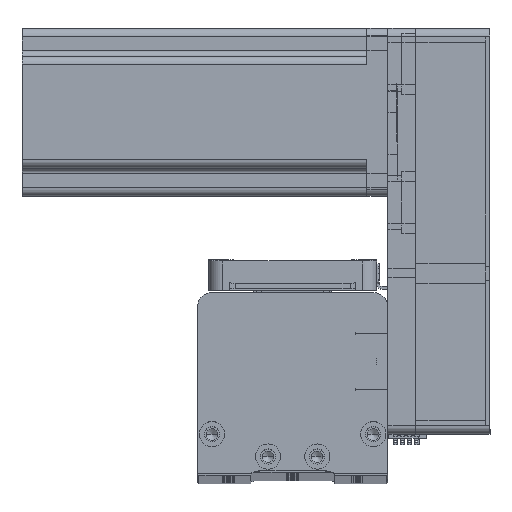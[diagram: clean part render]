
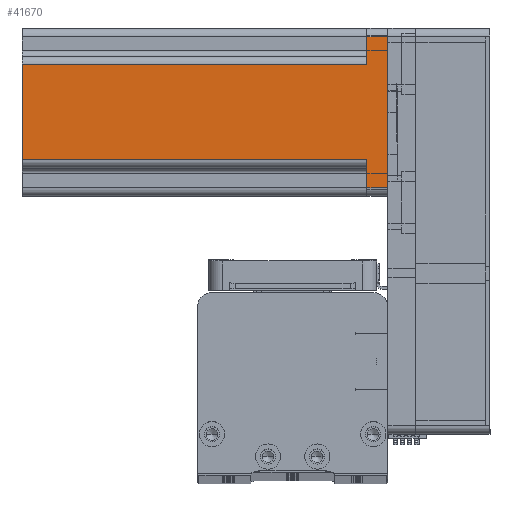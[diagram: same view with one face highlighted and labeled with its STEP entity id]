
A CAD part, top view. The second image highlights one B-rep face of the part: STEP entity #41670.
In plain terms, the highlighted planar face has unit normal (0, 0, 1) as drawn and (0, -1, 0) by its records, which use the part's own axes.
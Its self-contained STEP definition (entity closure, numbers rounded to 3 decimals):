
#8 = ORIENTED_EDGE ( 'NONE', *, *, #1772, .T. ) ;
#1043 = CARTESIAN_POINT ( 'NONE',  ( 20., -30., 7.5 ) ) ;
#1360 = VERTEX_POINT ( 'NONE', #52355 ) ;
#1653 = CARTESIAN_POINT ( 'NONE',  ( 27., -30., 0. ) ) ;
#1772 = EDGE_CURVE ( 'NONE', #10122, #1360, #12797, .T. ) ;
#2531 = LINE ( 'NONE', #3156, #46160 ) ;
#3156 = CARTESIAN_POINT ( 'NONE',  ( -27., -30., 130.7 ) ) ;
#5424 = EDGE_CURVE ( 'NONE', #1360, #37814, #44666, .T. ) ;
#6087 = CARTESIAN_POINT ( 'NONE',  ( -20., -30., 7.5 ) ) ;
#7994 = ORIENTED_EDGE ( 'NONE', *, *, #50525, .T. ) ;
#8808 = CARTESIAN_POINT ( 'NONE',  ( -27., -30., 7.5 ) ) ;
#10122 = VERTEX_POINT ( 'NONE', #1653 ) ;
#11508 = VECTOR ( 'NONE', #12740, 1000. ) ;
#12740 = DIRECTION ( 'NONE',  ( 0., 0., 1. ) ) ;
#12797 = LINE ( 'NONE', #42305, #11508 ) ;
#13905 = VECTOR ( 'NONE', #39654, 1000. ) ;
#13941 = ORIENTED_EDGE ( 'NONE', *, *, #36958, .F. ) ;
#14354 = DIRECTION ( 'NONE',  ( 1., 0., 0. ) ) ;
#14686 = LINE ( 'NONE', #28253, #25900 ) ;
#15110 = VECTOR ( 'NONE', #14354, 1000. ) ;
#16403 = LINE ( 'NONE', #6087, #15110 ) ;
#18987 = CARTESIAN_POINT ( 'NONE',  ( 30., -30., 130.7 ) ) ;
#24117 = VERTEX_POINT ( 'NONE', #41748 ) ;
#24241 = AXIS2_PLACEMENT_3D ( 'NONE', #24462, #54070, #28727 ) ;
#24462 = CARTESIAN_POINT ( 'NONE',  ( 30., -30., 130.7 ) ) ;
#25900 = VECTOR ( 'NONE', #53620, 1000. ) ;
#25920 = VECTOR ( 'NONE', #48674, 1000. ) ;
#25943 = ORIENTED_EDGE ( 'NONE', *, *, #5424, .T. ) ;
#25952 = ORIENTED_EDGE ( 'NONE', *, *, #51631, .F. ) ;
#26980 = CARTESIAN_POINT ( 'NONE',  ( 30., -30., 0. ) ) ;
#27813 = VERTEX_POINT ( 'NONE', #50180 ) ;
#28253 = CARTESIAN_POINT ( 'NONE',  ( -17., -30., 130.7 ) ) ;
#28727 = DIRECTION ( 'NONE',  ( -1., 0., 0. ) ) ;
#30949 = CARTESIAN_POINT ( 'NONE',  ( 17., -30., 130.7 ) ) ;
#31214 = DIRECTION ( 'NONE',  ( 1., 0., 0. ) ) ;
#31499 = CARTESIAN_POINT ( 'NONE',  ( 17., -30., 130.7 ) ) ;
#31778 = VERTEX_POINT ( 'NONE', #31499 ) ;
#31989 = VECTOR ( 'NONE', #31214, 1000. ) ;
#33393 = ORIENTED_EDGE ( 'NONE', *, *, #37743, .T. ) ;
#33725 = FACE_OUTER_BOUND ( 'NONE', #53927, .T. ) ;
#35033 = DIRECTION ( 'NONE',  ( -1., 0., 0. ) ) ;
#36958 = EDGE_CURVE ( 'NONE', #42768, #27813, #16403, .T. ) ;
#37182 = LINE ( 'NONE', #18987, #25920 ) ;
#37743 = EDGE_CURVE ( 'NONE', #42768, #46127, #2531, .T. ) ;
#37814 = VERTEX_POINT ( 'NONE', #50460 ) ;
#39361 = EDGE_CURVE ( 'NONE', #46127, #10122, #48606, .T. ) ;
#39654 = DIRECTION ( 'NONE',  ( 0., 0., 1. ) ) ;
#40322 = ORIENTED_EDGE ( 'NONE', *, *, #39361, .T. ) ;
#40775 = PLANE ( 'NONE',  #24241 ) ;
#41091 = EDGE_CURVE ( 'NONE', #24117, #27813, #14686, .T. ) ;
#41670 = ADVANCED_FACE ( 'NONE', ( #33725 ), #40775, .F. ) ;
#41748 = CARTESIAN_POINT ( 'NONE',  ( -17., -30., 130.7 ) ) ;
#42305 = CARTESIAN_POINT ( 'NONE',  ( 27., -30., 130.7 ) ) ;
#42768 = VERTEX_POINT ( 'NONE', #8808 ) ;
#44666 = LINE ( 'NONE', #1043, #52633 ) ;
#46127 = VERTEX_POINT ( 'NONE', #50847 ) ;
#46160 = VECTOR ( 'NONE', #49935, 1000. ) ;
#47672 = LINE ( 'NONE', #30949, #13905 ) ;
#48606 = LINE ( 'NONE', #26980, #31989 ) ;
#48674 = DIRECTION ( 'NONE',  ( 1., 0., 0. ) ) ;
#49935 = DIRECTION ( 'NONE',  ( 0., 0., -1. ) ) ;
#50180 = CARTESIAN_POINT ( 'NONE',  ( -17., -30., 7.5 ) ) ;
#50342 = ORIENTED_EDGE ( 'NONE', *, *, #41091, .T. ) ;
#50460 = CARTESIAN_POINT ( 'NONE',  ( 17., -30., 7.5 ) ) ;
#50525 = EDGE_CURVE ( 'NONE', #37814, #31778, #47672, .T. ) ;
#50847 = CARTESIAN_POINT ( 'NONE',  ( -27., -30., 0. ) ) ;
#51631 = EDGE_CURVE ( 'NONE', #24117, #31778, #37182, .T. ) ;
#52355 = CARTESIAN_POINT ( 'NONE',  ( 27., -30., 7.5 ) ) ;
#52633 = VECTOR ( 'NONE', #35033, 1000. ) ;
#53620 = DIRECTION ( 'NONE',  ( 0., 0., -1. ) ) ;
#53927 = EDGE_LOOP ( 'NONE', ( #25952, #50342, #13941, #33393, #40322, #8, #25943, #7994 ) ) ;
#54070 = DIRECTION ( 'NONE',  ( 0., 1., 0. ) ) ;
